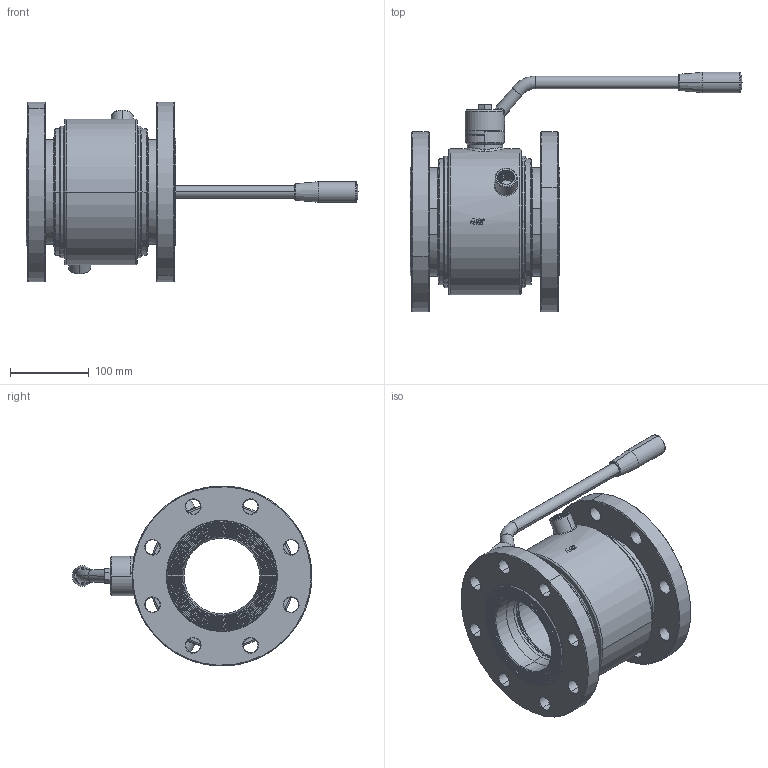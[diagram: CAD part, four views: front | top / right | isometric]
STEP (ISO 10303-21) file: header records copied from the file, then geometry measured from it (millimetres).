
FILE_DESCRIPTION((''),'2;1');
FILE_NAME('130155C65410_SW0001','2026-07-27T11:01:01',('tecnico2'),('CDM Tecnoconsulting'),'CREO PARAMETRIC BY PTC INC, 2024063','CREO PARAMETRIC BY PTC INC, 2024063','');
FILE_SCHEMA(('CONFIG_CONTROL_DESIGN','SHAPE_APPEARANCE_LAYERS_GROUPS'));
Products named in the file (1): 130155C65410_SW0001
Bounding box: 421.5 x 304.19 x 228.38 mm (x, y, z)
Volume: 3638457.4 mm3; surface area: 681758 mm2
Topology: 1 solids, 1 shells, 1315 faces, 3377 edges, 2130 vertices
Faces by surface type: plane 478, cylinder 269, cone 215, extrusion 166, bspline 91, torus 82, sphere 14
Entity records: 75746 total; most frequent: CARTESIAN_POINT 34272, ORIENTED_EDGE 6718, DIRECTION 5621, PRESENTATION_STYLE_ASSIGNMENT 3464, STYLED_ITEM 3360, CURVE_STYLE 3359, EDGE_CURVE 3359, VERTEX_POINT 2130
